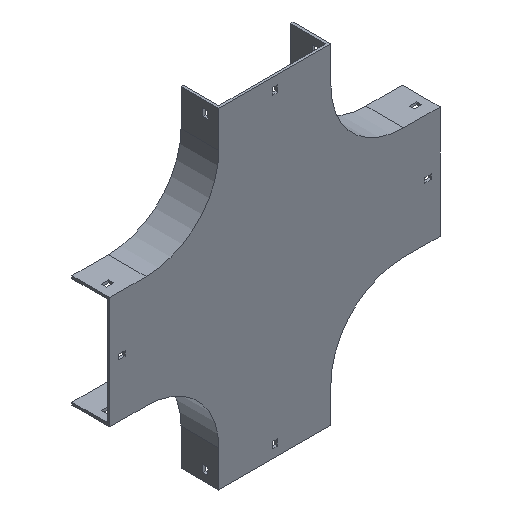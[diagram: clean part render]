
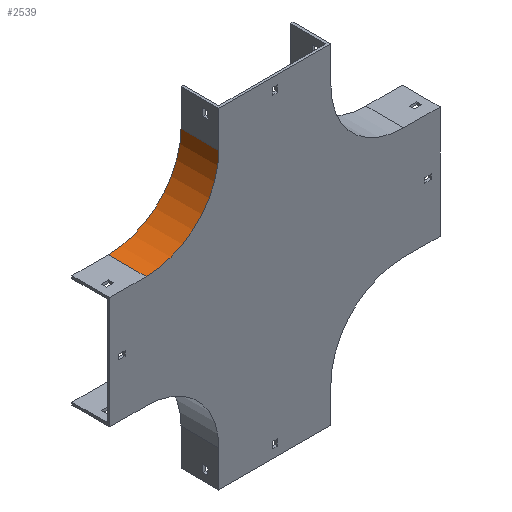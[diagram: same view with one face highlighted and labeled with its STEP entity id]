
A CAD part, isometric view. The second image highlights one B-rep face of the part: STEP entity #2539.
In plain terms, the highlighted cylindrical face has radius 100 mm (diameter 200 mm), a partial arc.
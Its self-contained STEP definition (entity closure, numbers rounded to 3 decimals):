
#29 = CARTESIAN_POINT ( 'NONE',  ( -254., 52., 0. ) ) ;
#311 = CARTESIAN_POINT ( 'NONE',  ( -354., 52., 0. ) ) ;
#365 = DIRECTION ( 'NONE',  ( 0., -1., 0. ) ) ;
#398 = CARTESIAN_POINT ( 'NONE',  ( -354., 52., -100. ) ) ;
#413 = EDGE_CURVE ( 'NONE', #536, #2276, #618, .T. ) ;
#483 = CARTESIAN_POINT ( 'NONE',  ( -354., 0., 0. ) ) ;
#525 = CYLINDRICAL_SURFACE ( 'NONE', #1833, 100. ) ;
#536 = VERTEX_POINT ( 'NONE', #1540 ) ;
#571 = VERTEX_POINT ( 'NONE', #2159 ) ;
#590 = DIRECTION ( 'NONE',  ( 0., 0., -1. ) ) ;
#618 = CIRCLE ( 'NONE', #1941, 100. ) ;
#656 = CARTESIAN_POINT ( 'NONE',  ( -354., 52., 0. ) ) ;
#674 = CIRCLE ( 'NONE', #1350, 100. ) ;
#777 = EDGE_CURVE ( 'NONE', #536, #571, #1310, .T. ) ;
#877 = LINE ( 'NONE', #2567, #2269 ) ;
#1310 = LINE ( 'NONE', #398, #1821 ) ;
#1350 = AXIS2_PLACEMENT_3D ( 'NONE', #483, #1357, #2185 ) ;
#1357 = DIRECTION ( 'NONE',  ( 0., -1., 0. ) ) ;
#1364 = ORIENTED_EDGE ( 'NONE', *, *, #413, .F. ) ;
#1536 = ORIENTED_EDGE ( 'NONE', *, *, #2498, .T. ) ;
#1540 = CARTESIAN_POINT ( 'NONE',  ( -354., 52., -100. ) ) ;
#1672 = ORIENTED_EDGE ( 'NONE', *, *, #2417, .F. ) ;
#1686 = ORIENTED_EDGE ( 'NONE', *, *, #777, .T. ) ;
#1821 = VECTOR ( 'NONE', #1905, 1000. ) ;
#1833 = AXIS2_PLACEMENT_3D ( 'NONE', #311, #365, #590 ) ;
#1870 = DIRECTION ( 'NONE',  ( 0., -1., 0. ) ) ;
#1905 = DIRECTION ( 'NONE',  ( 0., -1., 0. ) ) ;
#1934 = DIRECTION ( 'NONE',  ( 0., -1., 0. ) ) ;
#1941 = AXIS2_PLACEMENT_3D ( 'NONE', #656, #1870, #2122 ) ;
#2122 = DIRECTION ( 'NONE',  ( 0., 0., 1. ) ) ;
#2159 = CARTESIAN_POINT ( 'NONE',  ( -354., 0., -100. ) ) ;
#2185 = DIRECTION ( 'NONE',  ( 0., 0., 1. ) ) ;
#2254 = VERTEX_POINT ( 'NONE', #2736 ) ;
#2269 = VECTOR ( 'NONE', #1934, 1000. ) ;
#2276 = VERTEX_POINT ( 'NONE', #29 ) ;
#2417 = EDGE_CURVE ( 'NONE', #2276, #2254, #877, .T. ) ;
#2431 = FACE_OUTER_BOUND ( 'NONE', #2704, .T. ) ;
#2498 = EDGE_CURVE ( 'NONE', #571, #2254, #674, .T. ) ;
#2539 = ADVANCED_FACE ( 'NONE', ( #2431 ), #525, .F. ) ;
#2567 = CARTESIAN_POINT ( 'NONE',  ( -254., 52., 0. ) ) ;
#2704 = EDGE_LOOP ( 'NONE', ( #1536, #1672, #1364, #1686 ) ) ;
#2736 = CARTESIAN_POINT ( 'NONE',  ( -254., 0., 0. ) ) ;
